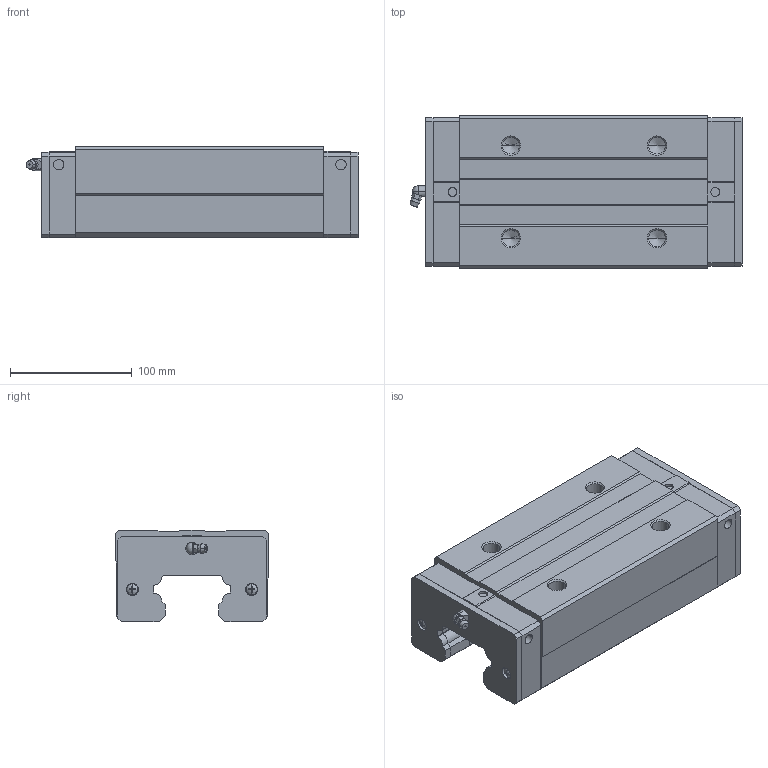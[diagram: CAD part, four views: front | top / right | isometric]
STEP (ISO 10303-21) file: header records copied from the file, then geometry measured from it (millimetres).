
FILE_DESCRIPTION(('starvars output'),'2;1');
FILE_NAME('cv20190625223815000108984.stp','22:38:15 2019/06/25',( 'Thomas Industrial Network Germany GmbH'),( 'Thomas Industrial Network Germany GmbH'),'unknown preprocess','ACIS' ,'unknown authorization');
FILE_SCHEMA(('CONFIG_CONTROL_DESIGN {UNKNOWN IMPLEMENTATION LEVEL}'));
Length unit declared in the file: millimetre
Products named in the file (10): PRODUCT_ID_1; PRODUCT_ID_2; PRODUCT_ID_3; PRODUCT_ID_4; PRODUCT_ID_5; PRODUCT_ID_6; PRODUCT_ID_7; PRODUCT_ID_8; PRODUCT_ID_9; PRODUCT_ID_10
Bounding box: 272.5 x 126 x 75 mm (x, y, z)
Volume: 1849895.2 mm3; surface area: 201185.1 mm2
Topology: 10 solids, 10 shells, 396 faces, 993 edges, 627 vertices
Faces by surface type: plane 244, cone 70, cylinder 70, sphere 12
Entity records: 11258 total; most frequent: ORIENTED_EDGE 1962, CARTESIAN_POINT 1847, DIRECTION 1527, EDGE_CURVE 981, VERTEX_POINT 627, VECTOR 625, LINE 625, AXIS2_PLACEMENT_3D 451
